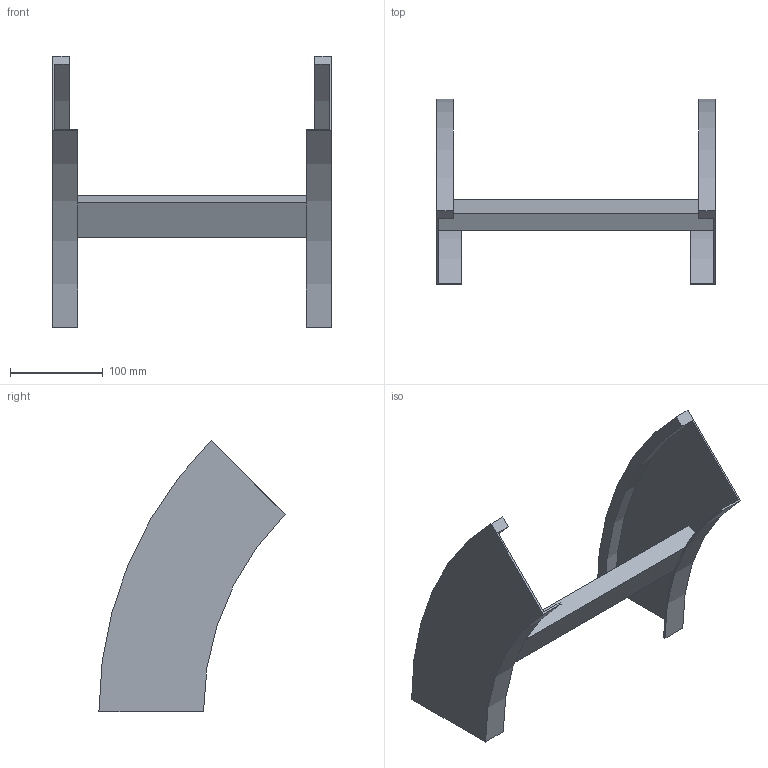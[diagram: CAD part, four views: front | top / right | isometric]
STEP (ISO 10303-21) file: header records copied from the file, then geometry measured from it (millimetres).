
FILE_DESCRIPTION (( 'STEP AP214' ), '1' );
FILE_NAME ('B2_34B3J300.step', '2025-02-21T14:53:46', ( '' ), ( '' ), 'SwSTEP 2.0', 'SolidWorks 2023', '' );
FILE_SCHEMA (( 'AUTOMOTIVE_DESIGN' ));
Length unit declared in the file: millimetre
Products named in the file (3): B2_34B3J300; B2_LONGH.DISCESA_45°_H112.5_R300; TRAVERSINO_300
Assembly tree (3 placements, depth 2):
  B2_34B3J300
    B2_LONGH.DISCESA_45°_H112.5_R300  x2
    TRAVERSINO_300
Bounding box: 300 x 200.37 x 291.68 mm (x, y, z)
Volume: 511907.1 mm3; surface area: 211524.9 mm2
Topology: 3 solids, 3 shells, 26 faces, 60 edges, 40 vertices
Faces by surface type: plane 18, cylinder 8
Entity records: 544 total; most frequent: DIRECTION 88, CARTESIAN_POINT 82, ORIENTED_EDGE 72, EDGE_CURVE 36, AXIS2_PLACEMENT_3D 30, LINE 28, VECTOR 28, VERTEX_POINT 24
